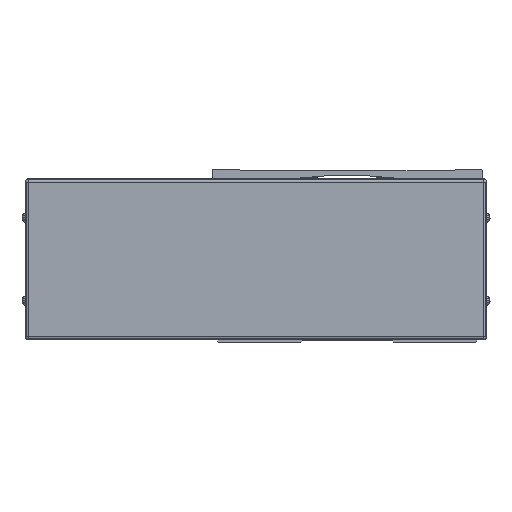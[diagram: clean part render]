
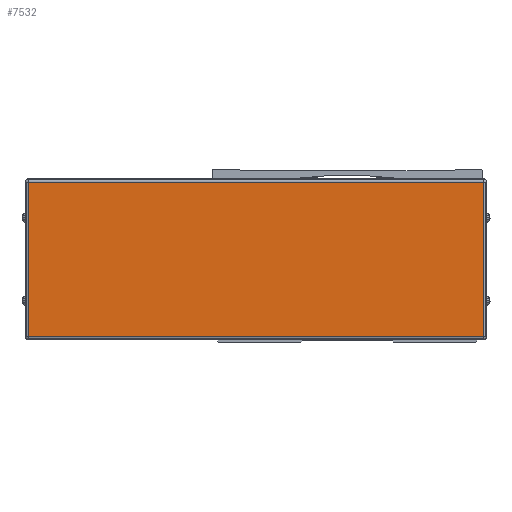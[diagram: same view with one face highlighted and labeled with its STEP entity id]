
A CAD part, front view. The second image highlights one B-rep face of the part: STEP entity #7532.
In plain terms, the highlighted planar face has unit normal (0, -1, 0).
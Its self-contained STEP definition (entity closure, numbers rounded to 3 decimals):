
#7532=ADVANCED_FACE('',(#15344),#15345,.F.);
#15344=FACE_OUTER_BOUND('',#25471,.T.);
#15345=PLANE('',#25472);
#25471=EDGE_LOOP('',(#47822,#47823,#47824,#47825));
#25472=AXIS2_PLACEMENT_3D('',#47826,#47827,#47828);
#47822=ORIENTED_EDGE('',*,*,#57197,.T.);
#47823=ORIENTED_EDGE('',*,*,#58326,.T.);
#47824=ORIENTED_EDGE('',*,*,#55261,.T.);
#47825=ORIENTED_EDGE('',*,*,#56142,.T.);
#47826=CARTESIAN_POINT('',(-655.,-72.778,-2.));
#47827=DIRECTION('',(0.,1.0,0.));
#47828=DIRECTION('',(-1.0,0.,0.));
#55261=EDGE_CURVE('',#67274,#67987,#67989,.T.);
#56142=EDGE_CURVE('',#67987,#60942,#69203,.T.);
#57197=EDGE_CURVE('',#60942,#70557,#70559,.T.);
#58326=EDGE_CURVE('',#70557,#67274,#71847,.T.);
#60942=VERTEX_POINT('',#75491);
#67274=VERTEX_POINT('',#84734);
#67987=VERTEX_POINT('',#85703);
#67989=LINE('',#85705,#85706);
#69203=LINE('',#87548,#87549);
#70557=VERTEX_POINT('',#89631);
#70559=LINE('',#89633,#89634);
#71847=LINE('',#91651,#91652);
#75491=CARTESIAN_POINT('',(-517.9,-72.778,44.5));
#84734=CARTESIAN_POINT('',(-792.1,-72.778,-48.5));
#85703=CARTESIAN_POINT('',(-517.9,-72.778,-48.5));
#85705=CARTESIAN_POINT('',(-655.,-72.778,-48.5));
#85706=VECTOR('',#99311,10.0);
#87548=CARTESIAN_POINT('',(-517.9,-72.778,-2.));
#87549=VECTOR('',#100448,10.0);
#89631=CARTESIAN_POINT('',(-792.1,-72.778,44.5));
#89633=CARTESIAN_POINT('',(-655.,-72.778,44.5));
#89634=VECTOR('',#101558,10.0);
#91651=CARTESIAN_POINT('',(-792.1,-72.778,-2.));
#91652=VECTOR('',#102577,10.0);
#99311=DIRECTION('',(1.0,0.,0.));
#100448=DIRECTION('',(0.,0.,1.0));
#101558=DIRECTION('',(-1.0,0.,0.));
#102577=DIRECTION('',(0.,0.,-1.0));
